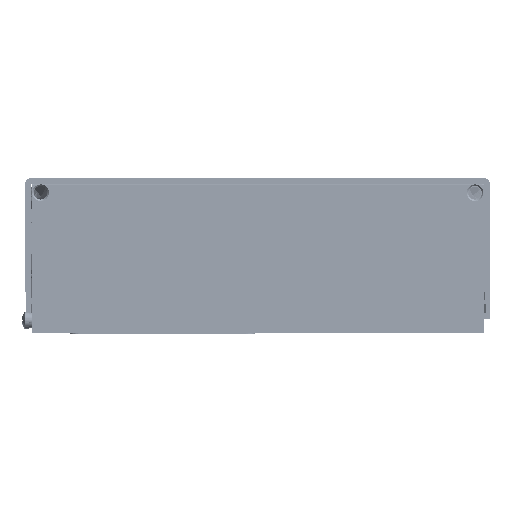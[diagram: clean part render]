
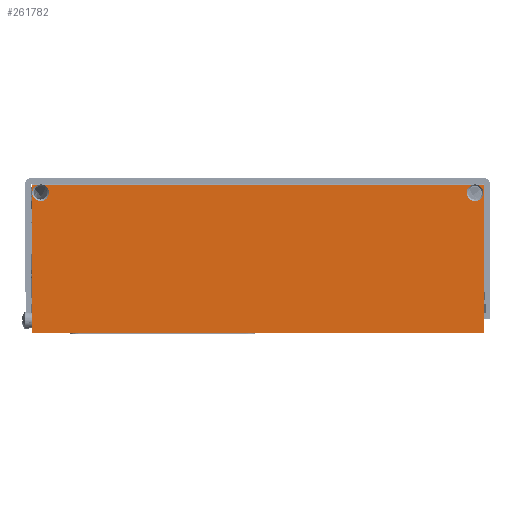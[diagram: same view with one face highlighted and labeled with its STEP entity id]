
A CAD part, left-side view. The second image highlights one B-rep face of the part: STEP entity #261782.
In plain terms, the highlighted planar face has unit normal (-1, 0, 0).
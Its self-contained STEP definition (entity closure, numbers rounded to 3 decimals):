
#199 = DIRECTION ( 'NONE',  ( 0., 0., 1. ) ) ;
#5333 = ORIENTED_EDGE ( 'NONE', *, *, #183817, .F. ) ;
#6527 = VERTEX_POINT ( 'NONE', #168877 ) ;
#7384 = CARTESIAN_POINT ( 'NONE',  ( -50.25, 69.949, -1.5 ) ) ;
#7609 = DIRECTION ( 'NONE',  ( -1., 0., 0. ) ) ;
#7947 = ORIENTED_EDGE ( 'NONE', *, *, #253523, .F. ) ;
#12932 = ORIENTED_EDGE ( 'NONE', *, *, #219907, .F. ) ;
#17553 = AXIS2_PLACEMENT_3D ( 'NONE', #281376, #61877, #318140 ) ;
#23992 = VERTEX_POINT ( 'NONE', #390921 ) ;
#33127 = VECTOR ( 'NONE', #279858, 1000. ) ;
#61877 = DIRECTION ( 'NONE',  ( -1., 0., 0. ) ) ;
#64877 = AXIS2_PLACEMENT_3D ( 'NONE', #181153, #437289, #218009 ) ;
#66959 = DIRECTION ( 'NONE',  ( -1., 0., 0. ) ) ;
#69765 = LINE ( 'NONE', #169924, #447943 ) ;
#76283 = EDGE_CURVE ( 'NONE', #90254, #126445, #243497, .T. ) ;
#81791 = CIRCLE ( 'NONE', #64877, 2.7 ) ;
#82680 = AXIS2_PLACEMENT_3D ( 'NONE', #466732, #141561, #397801 ) ;
#85252 = CARTESIAN_POINT ( 'NONE',  ( -50.25, -70.35, -4.17 ) ) ;
#90059 = CARTESIAN_POINT ( 'NONE',  ( -50.25, -73.2, -1.5 ) ) ;
#90254 = VERTEX_POINT ( 'NONE', #308575 ) ;
#104702 = PLANE ( 'NONE',  #82680 ) ;
#106028 = ORIENTED_EDGE ( 'NONE', *, *, #420859, .F. ) ;
#110350 = AXIS2_PLACEMENT_3D ( 'NONE', #126388, #382685, #163234 ) ;
#122113 = DIRECTION ( 'NONE',  ( 0., -1., 0. ) ) ;
#126388 = CARTESIAN_POINT ( 'NONE',  ( -50.25, -70.35, -4.17 ) ) ;
#126445 = VERTEX_POINT ( 'NONE', #7384 ) ;
#130853 = VERTEX_POINT ( 'NONE', #440111 ) ;
#131535 = ORIENTED_EDGE ( 'NONE', *, *, #203306, .F. ) ;
#136618 = LINE ( 'NONE', #219504, #320136 ) ;
#141561 = DIRECTION ( 'NONE',  ( 1., 0., 0. ) ) ;
#157264 = VERTEX_POINT ( 'NONE', #465146 ) ;
#163234 = DIRECTION ( 'NONE',  ( 0., -1., 0. ) ) ;
#166691 = EDGE_LOOP ( 'NONE', ( #442495, #282796, #131535, #177213, #12932, #5333, #205394, #7947, #106028, #463497, #170122, #199635 ) ) ;
#168178 = VERTEX_POINT ( 'NONE', #437778 ) ;
#168877 = CARTESIAN_POINT ( 'NONE',  ( -50.25, -73.2, -49.5 ) ) ;
#169924 = CARTESIAN_POINT ( 'NONE',  ( -50.25, -73.2, -1.5 ) ) ;
#170122 = ORIENTED_EDGE ( 'NONE', *, *, #384094, .F. ) ;
#177213 = ORIENTED_EDGE ( 'NONE', *, *, #206414, .F. ) ;
#177506 = LINE ( 'NONE', #90059, #372335 ) ;
#181153 = CARTESIAN_POINT ( 'NONE',  ( -50.25, 70.35, -4.17 ) ) ;
#183817 = EDGE_CURVE ( 'NONE', #126445, #250521, #471767, .T. ) ;
#192544 = AXIS2_PLACEMENT_3D ( 'NONE', #226957, #7609, #263790 ) ;
#196501 = EDGE_CURVE ( 'NONE', #6527, #199345, #136618, .T. ) ;
#199345 = VERTEX_POINT ( 'NONE', #360565 ) ;
#199424 = CARTESIAN_POINT ( 'NONE',  ( -50.25, -73.2, -1.5 ) ) ;
#199635 = ORIENTED_EDGE ( 'NONE', *, *, #339140, .T. ) ;
#203306 = EDGE_CURVE ( 'NONE', #130853, #233750, #293128, .T. ) ;
#205394 = ORIENTED_EDGE ( 'NONE', *, *, #76283, .F. ) ;
#206414 = EDGE_CURVE ( 'NONE', #263490, #130853, #228285, .T. ) ;
#210844 = CARTESIAN_POINT ( 'NONE',  ( -50.25, -67.65, -4.17 ) ) ;
#216133 = CIRCLE ( 'NONE', #261555, 2.7 ) ;
#218009 = DIRECTION ( 'NONE',  ( 0., -1., 0. ) ) ;
#219504 = CARTESIAN_POINT ( 'NONE',  ( -50.25, -73.2, -37.75 ) ) ;
#219907 = EDGE_CURVE ( 'NONE', #250521, #263490, #251822, .T. ) ;
#226957 = CARTESIAN_POINT ( 'NONE',  ( -50.25, -70.35, -4.17 ) ) ;
#227874 = LINE ( 'NONE', #242894, #33127 ) ;
#228285 = CIRCLE ( 'NONE', #110350, 2.7 ) ;
#233750 = VERTEX_POINT ( 'NONE', #448988 ) ;
#242894 = CARTESIAN_POINT ( 'NONE',  ( -50.25, 0., -49.5 ) ) ;
#243497 = CIRCLE ( 'NONE', #17553, 2.7 ) ;
#249925 = CARTESIAN_POINT ( 'NONE',  ( -50.25, 73.2, -42.25 ) ) ;
#250521 = VERTEX_POINT ( 'NONE', #383566 ) ;
#251822 = CIRCLE ( 'NONE', #333989, 2.7 ) ;
#253523 = EDGE_CURVE ( 'NONE', #441336, #90254, #216133, .T. ) ;
#261555 = AXIS2_PLACEMENT_3D ( 'NONE', #286457, #66959, #323222 ) ;
#261782 = ADVANCED_FACE ( 'NONE', ( #413895 ), #104702, .F. ) ;
#263490 = VERTEX_POINT ( 'NONE', #210844 ) ;
#263790 = DIRECTION ( 'NONE',  ( 0., -1., 0. ) ) ;
#273088 = DIRECTION ( 'NONE',  ( 0., -1., 0. ) ) ;
#276818 = CARTESIAN_POINT ( 'NONE',  ( -50.25, 73.05, -4.17 ) ) ;
#279858 = DIRECTION ( 'NONE',  ( 0., -1., 0. ) ) ;
#281376 = CARTESIAN_POINT ( 'NONE',  ( -50.25, 70.35, -4.17 ) ) ;
#282796 = ORIENTED_EDGE ( 'NONE', *, *, #359780, .F. ) ;
#286457 = CARTESIAN_POINT ( 'NONE',  ( -50.25, 70.35, -4.17 ) ) ;
#288542 = VECTOR ( 'NONE', #273088, 1000. ) ;
#293128 = CIRCLE ( 'NONE', #192544, 2.7 ) ;
#308575 = CARTESIAN_POINT ( 'NONE',  ( -50.25, 67.65, -4.17 ) ) ;
#318140 = DIRECTION ( 'NONE',  ( 0., -1., 0. ) ) ;
#320136 = VECTOR ( 'NONE', #199, 1000. ) ;
#323222 = DIRECTION ( 'NONE',  ( 0., -1., 0. ) ) ;
#333989 = AXIS2_PLACEMENT_3D ( 'NONE', #85252, #341643, #122113 ) ;
#339140 = EDGE_CURVE ( 'NONE', #157264, #6527, #227874, .T. ) ;
#341643 = DIRECTION ( 'NONE',  ( -1., 0., 0. ) ) ;
#346439 = DIRECTION ( 'NONE',  ( 0., -1., 0. ) ) ;
#359780 = EDGE_CURVE ( 'NONE', #233750, #199345, #177506, .T. ) ;
#360565 = CARTESIAN_POINT ( 'NONE',  ( -50.25, -73.2, -1.5 ) ) ;
#372335 = VECTOR ( 'NONE', #346439, 1000. ) ;
#382685 = DIRECTION ( 'NONE',  ( -1., 0., 0. ) ) ;
#383566 = CARTESIAN_POINT ( 'NONE',  ( -50.25, -69.949, -1.5 ) ) ;
#384094 = EDGE_CURVE ( 'NONE', #157264, #23992, #425153, .T. ) ;
#390921 = CARTESIAN_POINT ( 'NONE',  ( -50.25, 73.2, -1.5 ) ) ;
#397801 = DIRECTION ( 'NONE',  ( 0., 1., 0. ) ) ;
#413586 = VECTOR ( 'NONE', #433984, 1000. ) ;
#413895 = FACE_OUTER_BOUND ( 'NONE', #166691, .T. ) ;
#420859 = EDGE_CURVE ( 'NONE', #168178, #441336, #81791, .T. ) ;
#425153 = LINE ( 'NONE', #249925, #413586 ) ;
#429203 = DIRECTION ( 'NONE',  ( 0., -1., 0. ) ) ;
#433984 = DIRECTION ( 'NONE',  ( 0., 0., 1. ) ) ;
#437289 = DIRECTION ( 'NONE',  ( -1., 0., 0. ) ) ;
#437778 = CARTESIAN_POINT ( 'NONE',  ( -50.25, 70.751, -1.5 ) ) ;
#440111 = CARTESIAN_POINT ( 'NONE',  ( -50.25, -73.05, -4.17 ) ) ;
#441336 = VERTEX_POINT ( 'NONE', #276818 ) ;
#442495 = ORIENTED_EDGE ( 'NONE', *, *, #196501, .T. ) ;
#446368 = EDGE_CURVE ( 'NONE', #23992, #168178, #69765, .T. ) ;
#447943 = VECTOR ( 'NONE', #429203, 1000. ) ;
#448988 = CARTESIAN_POINT ( 'NONE',  ( -50.25, -70.751, -1.5 ) ) ;
#463497 = ORIENTED_EDGE ( 'NONE', *, *, #446368, .F. ) ;
#465146 = CARTESIAN_POINT ( 'NONE',  ( -50.25, 73.2, -49.5 ) ) ;
#466732 = CARTESIAN_POINT ( 'NONE',  ( -50.25, -73.2, -37.75 ) ) ;
#471767 = LINE ( 'NONE', #199424, #288542 ) ;
